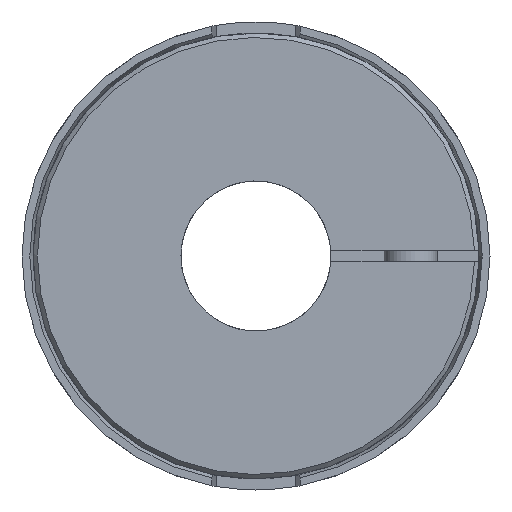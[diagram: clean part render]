
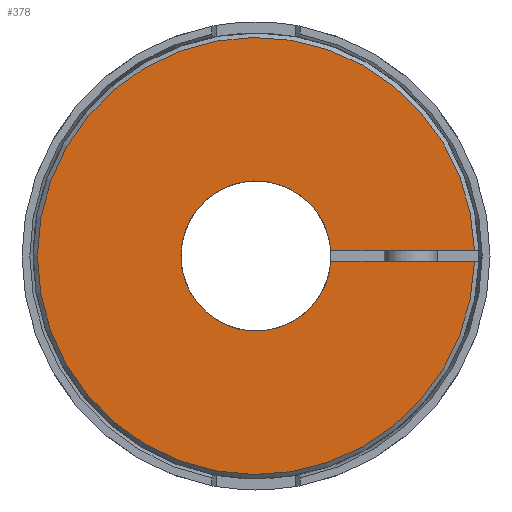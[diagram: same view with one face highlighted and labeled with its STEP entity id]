
A CAD part, left-side view. The second image highlights one B-rep face of the part: STEP entity #378.
In plain terms, the highlighted planar face has unit normal (-1, 0, 0).
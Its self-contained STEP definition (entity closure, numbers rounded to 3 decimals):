
#378 = ADVANCED_FACE( '', ( #833 ), #834, .T. );
#833 = FACE_OUTER_BOUND( '', #1315, .T. );
#834 = PLANE( '', #1316 );
#1315 = EDGE_LOOP( '', ( #2267, #2268, #2269, #2270 ) );
#1316 = AXIS2_PLACEMENT_3D( '', #2271, #2272, #2273 );
#2267 = ORIENTED_EDGE( '', *, *, #2681, .F. );
#2268 = ORIENTED_EDGE( '', *, *, #2783, .T. );
#2269 = ORIENTED_EDGE( '', *, *, #2807, .F. );
#2270 = ORIENTED_EDGE( '', *, *, #2667, .T. );
#2271 = CARTESIAN_POINT( '', ( -70.501, 0., 12. ) );
#2272 = DIRECTION( '', ( -1., 0., 0. ) );
#2273 = DIRECTION( '', ( 0., 0., 1. ) );
#2667 = EDGE_CURVE( '', #3186, #3190, #3192, .T. );
#2681 = EDGE_CURVE( '', #3210, #3190, #3213, .T. );
#2783 = EDGE_CURVE( '', #3210, #3343, #3345, .F. );
#2807 = EDGE_CURVE( '', #3186, #3343, #3375, .T. );
#3186 = VERTEX_POINT( '', #4198 );
#3190 = VERTEX_POINT( '', #4203 );
#3192 = CIRCLE( '', #4206, 49.5 );
#3210 = VERTEX_POINT( '', #4229 );
#3213 = LINE( '', #4233, #4234 );
#3343 = VERTEX_POINT( '', #4395 );
#3345 = CIRCLE( '', #4398, 17. );
#3375 = LINE( '', #4500, #4501 );
#4198 = CARTESIAN_POINT( '', ( -70.501, -49.485, 1.2 ) );
#4203 = CARTESIAN_POINT( '', ( -70.501, -49.485, -1.2 ) );
#4206 = AXIS2_PLACEMENT_3D( '', #4869, #4870, #4871 );
#4229 = CARTESIAN_POINT( '', ( -70.501, -16.958, -1.2 ) );
#4233 = CARTESIAN_POINT( '', ( -70.501, -6., -1.2 ) );
#4234 = VECTOR( '', #4884, 1000. );
#4395 = CARTESIAN_POINT( '', ( -70.501, -16.958, 1.2 ) );
#4398 = AXIS2_PLACEMENT_3D( '', #5004, #5005, #5006 );
#4500 = CARTESIAN_POINT( '', ( -70.501, -55., 1.2 ) );
#4501 = VECTOR( '', #5034, 1000. );
#4869 = CARTESIAN_POINT( '', ( -70.501, 0., 0. ) );
#4870 = DIRECTION( '', ( -1., 0., 0. ) );
#4871 = DIRECTION( '', ( 0., 0., 1. ) );
#4884 = DIRECTION( '', ( 0., -1., 0. ) );
#5004 = CARTESIAN_POINT( '', ( -70.501, 0., 0. ) );
#5005 = DIRECTION( '', ( -1., 0., 0. ) );
#5006 = DIRECTION( '', ( 0., 0., 1. ) );
#5034 = DIRECTION( '', ( 0., 1., 0. ) );
